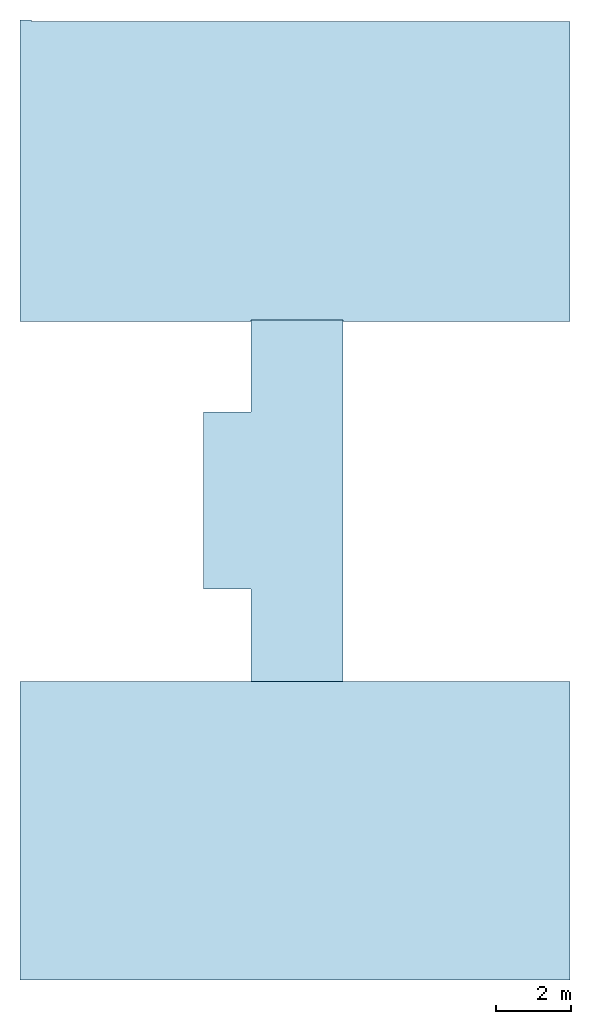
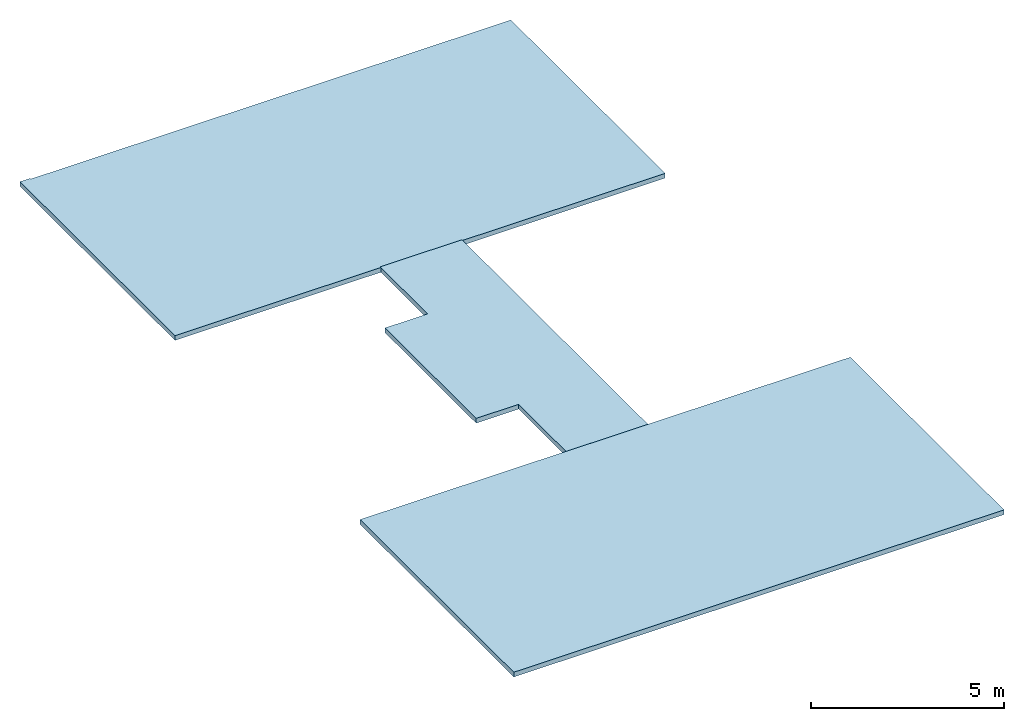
# One storey: 3 slabs.
"""IFC2X3 building model written with IfcOpenShell, lengths in millimetres."""

import ifcopenshell
import ifcopenshell.guid

model = None  # the IFC model being written
_history = None  # IfcOwnerHistory: only IFC2X3 demands one
_inside = {}  # id of a spatial element -> (the spatial element, [elements in it])
_under = {}  # id of a project, library or spatial element -> (it, [spatial elements below it])
_declared = {}  # id of a project -> (the project, [libraries it declares])
_typed = {}  # id of a type object -> (the type object, [elements of that type])
_made_of = {}  # id of a material, layer set ... -> (it, [elements and type objects made of it])


def new_model(schema):
    """Start an empty IFC model of exactly this schema.

    Asked for "IFC4X3", IfcOpenShell would pick the latest addendum, in which some entities
    have other attributes; the version numbers below select the first issue.
    IFC2X3 requires an IfcOwnerHistory on every rooted entity: one is made here for all.
    """
    global model, _history
    if schema == "IFC4X3":
        model = ifcopenshell.file(schema_version=(4, 3, 0, 0))
    else:
        model = ifcopenshell.file(schema=schema)
    _inside.clear()
    _under.clear()
    _declared.clear()
    _typed.clear()
    _made_of.clear()
    _history = None
    if model.schema == "IFC2X3":
        org = make("IfcOrganization", Name="unknown")
        user = make(
            "IfcPersonAndOrganization",
            ThePerson=make("IfcPerson", FamilyName="unknown"),
            TheOrganization=org,
        )
        app = make(
            "IfcApplication",
            ApplicationDeveloper=org,
            Version="unknown",
            ApplicationFullName="unknown",
            ApplicationIdentifier="unknown",
        )
        _history = make(
            "IfcOwnerHistory",
            OwningUser=user,
            OwningApplication=app,
            ChangeAction="ADDED",
            CreationDate=0,
        )
    return model


def make(cls, **values):
    """One entity of the class cls with the attributes given. An attribute that is None is left unset."""
    return model.create_entity(
        cls, **{name: value for name, value in values.items() if value is not None}
    )


def entity(cls, *values):
    """Any entity or typed value of the class cls, its attributes in the order of the schema. None: left unset."""
    e = model.create_entity(cls)
    for i, value in enumerate(values):
        if value is not None:
            e[i] = value
    return e


def rooted(cls, **values):
    """An entity with a GlobalId (a new one), such as an element, a storey or a relation."""
    return make(cls, GlobalId=ifcopenshell.guid.new(), OwnerHistory=_history, **values)


def si_unit(unit_type, name, prefix=None):
    """IfcSIUnit, for example si_unit("LENGTHUNIT", "METRE", prefix="MILLI")."""
    return make("IfcSIUnit", UnitType=unit_type, Prefix=prefix, Name=name)


def converted_unit(unit_type, name, factor, base, dimensions=None, offset=None):
    """IfcConversionBasedUnit, such as the inch: factor (a typed value) times the base unit."""
    return make(
        "IfcConversionBasedUnit"
        if offset is None
        else "IfcConversionBasedUnitWithOffset",
        ConversionOffset=offset,
        Dimensions=None
        if dimensions is None
        else entity("IfcDimensionalExponents", *dimensions),
        UnitType=unit_type,
        Name=name,
        ConversionFactor=make(
            "IfcMeasureWithUnit", ValueComponent=factor, UnitComponent=base
        ),
    )


def derived_unit(unit_type, elements):
    """IfcDerivedUnit: a product of units, each with its exponent."""
    return make(
        "IfcDerivedUnit",
        Elements=[
            make("IfcDerivedUnitElement", Unit=unit, Exponent=power)
            for unit, power in elements
        ],
        UnitType=unit_type,
    )


def money_unit(currency):
    """IfcMonetaryUnit."""
    return make("IfcMonetaryUnit", Currency=currency)


def assignment(units):
    """IfcUnitAssignment: the units of a project."""
    return None if units is None else make("IfcUnitAssignment", Units=units)


def point(xyz):
    """IfcCartesianPoint."""
    return None if xyz is None else make("IfcCartesianPoint", Coordinates=xyz)


def direction(xyz):
    """IfcDirection."""
    return None if xyz is None else make("IfcDirection", DirectionRatios=xyz)


def frame(location, z_axis=None, x_axis=None):
    """IfcAxis2Placement3D, a coordinate frame: its origin and axes. An axis left out is left unset."""
    return make(
        "IfcAxis2Placement3D",
        Location=point(location),
        Axis=direction(z_axis),
        RefDirection=direction(x_axis),
    )


def origin_with_axes():
    """The frame at (0, 0, 0) with the z axis (0, 0, 1) and the x axis (1, 0, 0) written out."""
    return frame((0.0, 0.0, 0.0), z_axis=(0.0, 0.0, 1.0), x_axis=(1.0, 0.0, 0.0))


def place(relative_to, where):
    """IfcLocalPlacement: puts the frame where relative to a parent placement (None: the world)."""
    return make(
        "IfcLocalPlacement", PlacementRelTo=relative_to, RelativePlacement=where
    )


def context(
    kind, dimensions, precision=None, world=None, true_north=None, identifier=None
):
    """IfcGeometricRepresentationContext, for example the 3D "Model" context."""
    return make(
        "IfcGeometricRepresentationContext",
        ContextIdentifier=identifier,
        ContextType=kind,
        CoordinateSpaceDimension=dimensions,
        Precision=precision,
        WorldCoordinateSystem=world,
        TrueNorth=true_north,
    )


def subcontext(parent, identifier, kind, view, scale=None):
    """IfcGeometricRepresentationSubContext, for example "Body" below "Model"."""
    return make(
        "IfcGeometricRepresentationSubContext",
        ContextIdentifier=identifier,
        ContextType=kind,
        ParentContext=parent,
        TargetScale=scale,
        TargetView=view,
    )


def project(units=None, contexts=None):
    """IfcProject with its units and contexts."""
    return rooted(
        "IfcProject",
        Name="project",
        RepresentationContexts=contexts,
        UnitsInContext=assignment(units),
    )


def spatial(cls, under=None, at=None, **own):
    """A site, building, storey or space (cls), placed at a placement, below another one or the project."""
    s = rooted(cls, ObjectPlacement=at, **own)
    if under is not None:
        _under.setdefault(under.id(), (under, []))[1].append(s)
    return s


def polyline(points):
    """IfcPolyline through the points."""
    return make("IfcPolyline", Points=[point(p) for p in points])


def outline(outer, holes=None, kind="AREA"):
    """IfcArbitraryClosedProfileDef: a profile drawn as a closed curve; with holes, ...WithVoids."""
    if holes is None:
        return make("IfcArbitraryClosedProfileDef", ProfileType=kind, OuterCurve=outer)
    return make(
        "IfcArbitraryProfileDefWithVoids",
        ProfileType=kind,
        OuterCurve=outer,
        InnerCurves=holes,
    )


def extrude(swept, where, along, depth):
    """IfcExtrudedAreaSolid: the profile swept, set in the frame where, extruded along a direction by depth."""
    return make(
        "IfcExtrudedAreaSolid",
        SweptArea=swept,
        Position=where,
        ExtrudedDirection=direction(along),
        Depth=depth,
    )


def shape(context_of_items, identifier, shape_type, items):
    """IfcShapeRepresentation: the items that make up one representation, for example the "Body"."""
    return make(
        "IfcShapeRepresentation",
        ContextOfItems=context_of_items,
        RepresentationIdentifier=identifier,
        RepresentationType=shape_type,
        Items=items,
    )


def material(Name=None, Category=None):
    """IfcMaterial."""
    return make("IfcMaterial", Name=Name, Category=Category)


def layer(
    of_material, thickness, ventilated=None, Name=None, Category=None, Priority=None
):
    """IfcMaterialLayer: one layer of a wall or slab, of a material (None: an air gap)."""
    return make(
        "IfcMaterialLayer",
        Material=of_material,
        LayerThickness=thickness,
        IsVentilated=ventilated,
        Name=Name,
        Category=Category,
        Priority=Priority,
    )


def layer_set(layers, Name=None):
    """IfcMaterialLayerSet."""
    return make("IfcMaterialLayerSet", MaterialLayers=layers, LayerSetName=Name)


def layer_usage(for_layer_set, set_direction, sense, offset, extent=None):
    """IfcMaterialLayerSetUsage: how a layer set lies in its element."""
    return make(
        "IfcMaterialLayerSetUsage",
        ForLayerSet=for_layer_set,
        LayerSetDirection=set_direction,
        DirectionSense=sense,
        OffsetFromReferenceLine=offset,
        ReferenceExtent=extent,
    )


def made_of(thing, what):
    """Note that an element or type object is made of a material, layer set ...; save() writes the relation."""
    if what is not None:
        _made_of.setdefault(what.id(), (what, []))[1].append(thing)
    return thing


def type_object(cls, material=None, **own):
    """A type object (cls), such as IfcWallType, which elements share."""
    return made_of(rooted(cls, **own), material)


def element(
    cls,
    number,
    at=None,
    inside=None,
    cuts=None,
    type_object=None,
    material=None,
    context=None,
    identifier="Body",
    shape_type=None,
    held_by="IfcProductDefinitionShape",
    body=None,
    shapes=None,
    **own,
):
    """One element of the class cls, such as IfcWall. Its Tag is "e" and its number.

    at: its placement. inside: the storey or other place that contains it. cuts: it is an
    opening in that element (IfcRelVoidsElement). A single representation is given by context,
    identifier, shape_type and body (its items); several are given by shapes. held_by: the class
    of the entity that holds the representations. save() writes the other relations.
    """
    e = rooted(cls, Tag="e%d" % number, ObjectPlacement=at, **own)
    if body is not None:
        shapes = [shape(context, identifier, shape_type, body)]
    if shapes is not None:
        e.Representation = make(held_by, Representations=shapes)
    if inside is not None:
        _inside.setdefault(inside.id(), (inside, []))[1].append(e)
    if cuts is not None:
        rooted(
            "IfcRelVoidsElement", RelatingBuildingElement=cuts, RelatedOpeningElement=e
        )
    if type_object is not None:
        _typed.setdefault(type_object.id(), (type_object, []))[1].append(e)
    return made_of(e, material)


def aggregate(whole, parts):
    """IfcRelAggregates: a whole, such as a stair, and the parts it consists of."""
    return rooted("IfcRelAggregates", RelatingObject=whole, RelatedObjects=parts)


def save(model, path):
    """Write the relations noted so far, then the file.

    IfcRelAggregates (storeys below a building ...), IfcRelContainedInSpatialStructure (elements
    in a storey), IfcRelDefinesByType, IfcRelAssociatesMaterial and IfcRelDeclares: one each for
    every whole, place, type object, material and project.
    """
    for whole, parts in _under.values():
        aggregate(whole, parts)
    for where, things in _inside.values():
        rooted(
            "IfcRelContainedInSpatialStructure",
            RelatedElements=things,
            RelatingStructure=where,
        )
    for kind, things in _typed.values():
        rooted("IfcRelDefinesByType", RelatedObjects=things, RelatingType=kind)
    for what, things in _made_of.values():
        rooted("IfcRelAssociatesMaterial", RelatedObjects=things, RelatingMaterial=what)
    for by, libraries in _declared.values():
        rooted("IfcRelDeclares", RelatingContext=by, RelatedDefinitions=libraries)
    model.write(path)


model = new_model("IFC2X3")

# Units and contexts
model_context = context("Model", 3, precision=0.01, world=origin_with_axes(), true_north=direction((0.0, 1.0)))
body_context = subcontext(model_context, "Body", "Model", "MODEL_VIEW")
ifc_project = project(units=[si_unit("LENGTHUNIT", "METRE", prefix="MILLI"), si_unit("AREAUNIT", "SQUARE_METRE"), si_unit("VOLUMEUNIT", "CUBIC_METRE"), converted_unit("PLANEANGLEUNIT", "DEGREE", entity("IfcPlaneAngleMeasure", 0.0174532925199), si_unit("PLANEANGLEUNIT", "RADIAN"), dimensions=[0, 0, 0, 0, 0, 0, 0]), money_unit("USD"), converted_unit("TIMEUNIT", "Year", entity("IfcTimeMeasure", 31556926.0), si_unit("TIMEUNIT", "SECOND"), dimensions=[0, 0, 1, 0, 0, 0, 0]), si_unit("MASSUNIT", "GRAM", prefix="KILO"), si_unit("THERMODYNAMICTEMPERATUREUNIT", "DEGREE_CELSIUS"), si_unit("LUMINOUSINTENSITYUNIT", "LUMEN"), si_unit("ENERGYUNIT", "JOULE", prefix="MEGA"), derived_unit("THERMALCONDUCTANCEUNIT", [(si_unit("POWERUNIT", "WATT"), 1), (si_unit("LENGTHUNIT", "METRE"), -1), (si_unit("THERMODYNAMICTEMPERATUREUNIT", "KELVIN"), -1)]), derived_unit("SPECIFICHEATCAPACITYUNIT", [(si_unit("ENERGYUNIT", "JOULE"), 1), (si_unit("MASSUNIT", "GRAM", prefix="KILO"), -1), (si_unit("THERMODYNAMICTEMPERATUREUNIT", "KELVIN"), -1)]), derived_unit("MASSDENSITYUNIT", [(si_unit("MASSUNIT", "GRAM", prefix="KILO"), 1), (si_unit("VOLUMEUNIT", "CUBIC_METRE"), -1)])], contexts=[model_context])

# Site, building, storey
site_placement = place(None, origin_with_axes())
site = spatial("IfcSite", under=ifc_project, at=site_placement, Name="Local", CompositionType="ELEMENT")
building_placement = place(site_placement, origin_with_axes())
building = spatial("IfcBuilding", under=site, at=building_placement, Name="Construção", CompositionType="ELEMENT")
storey_placement = place(building_placement, frame((0.0, 0.0, 7950.0), z_axis=(0.0, 0.0, 1.0), x_axis=(1.0, 0.0, 0.0)))
storey = spatial("IfcBuildingStorey", under=building, at=storey_placement, Name="Pavimento Cobertura", CompositionType="ELEMENT", Elevation=7950.0)

# Slabs
ifc_material = material(Name="Concreto Armado Moldado in Loco - Estrutural")
ifc_layer = layer(ifc_material, 150.0, ventilated="UNKNOWN")
ifc_layer_set = layer_set([ifc_layer], Name="Concreto Armado Moldado in Loco - Estrutural 150")
ifc_layer_usage_1 = layer_usage(ifc_layer_set, "AXIS3", "NEGATIVE", 150.0)
slab_type = type_object("IfcSlabType", Name="Concreto Armado Moldado in Loco - Estrutural 150", PredefinedType="FLOOR")
slab_1_placement = place(storey_placement, frame((6160.00013826, 8264.99995433, 0.0), z_axis=(0.0, 0.0, 1.0), x_axis=(1.0, 0.0, 0.0)))
element("IfcSlab", 1, at=slab_1_placement, inside=storey, type_object=slab_type, material=ifc_layer_usage_1, Name="LAJE-010", PredefinedType="FLOOR", context=body_context, shape_type="SweptSolid", body=[
    extrude(outline(polyline([(0.0, 0.0), (-6160.0234086, 0.0), (-6160.00023694, -7964.99995433), (-5860.00021972, -7964.99995433), (8509.99986174, -7964.99995433), (8509.99986174, 0.0), (2449.99977627, 0.0), (0.0, 0.0)])), frame((0.0, 0.0, -150.0), z_axis=(0.0, 0.0, 1.0), x_axis=(1.0, 0.0, 0.0)), (0.0, 0.0, 1.0), 150.0),
])
ifc_layer_usage_2 = layer_usage(ifc_layer_set, "AXIS3", "NEGATIVE", 150.0)
slab_2_placement = place(storey_placement, frame((4890.0, 10719.9999754, 0.0), z_axis=(0.0, 0.0, 1.0), x_axis=(1.0, 0.0, 0.0)))
element("IfcSlab", 2, at=slab_2_placement, inside=storey, type_object=slab_type, material=ifc_layer_usage_2, Name="LAJE-016", PredefinedType="FLOOR", context=body_context, shape_type="SweptSolid", body=[
    extrude(outline(polyline([(0.0, 0.0), (174.999951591, 0.000143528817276), (1269.99996445, 0.000143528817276), (1269.99996445, -2457.04673078), (3720.00000437, -2457.04673078), (3720.00000437, 7175.00002464), (1269.99996445, 7175.00002464), (1269.99996445, 4720.00001481), (174.999951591, 4720.00001481), (0.0, 4720.00001481), (0.0, 0.0)])), frame((0.0, 0.0, -150.0), z_axis=(0.0, 0.0, 1.0), x_axis=(1.0, 0.0, 0.0)), (0.0, 0.0, 1.0), 150.0),
])
ifc_layer_usage_3 = layer_usage(ifc_layer_set, "AXIS3", "NEGATIVE", 150.0)
slab_3_placement = place(storey_placement, frame((0.0, 17859.9995507, 0.0), z_axis=(0.0, 0.0, 1.0), x_axis=(1.0, 0.0, 0.0)))
element("IfcSlab", 3, at=slab_3_placement, inside=storey, type_object=slab_type, material=ifc_layer_usage_3, Name="LAJE-012", PredefinedType="FLOOR", context=body_context, shape_type="SweptSolid", body=[
    extrude(outline(polyline([(0.0, 0.0), (299.999978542, -0.000218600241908), (14670.0, -0.000218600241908), (14670.0, 8000.0005208), (8609.9999088, 8000.0005208), (6160.00008404, 8000.0005208), (300.038014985, 7997.95376672), (300.02489897, 8035.00038713), (0.0, 8035.00038713), (0.0, 0.0)])), frame((0.0, 0.0, -150.0), z_axis=(0.0, 0.0, 1.0), x_axis=(1.0, 0.0, 0.0)), (0.0, 0.0, 1.0), 150.0),
])

save(model, "model.ifc")
